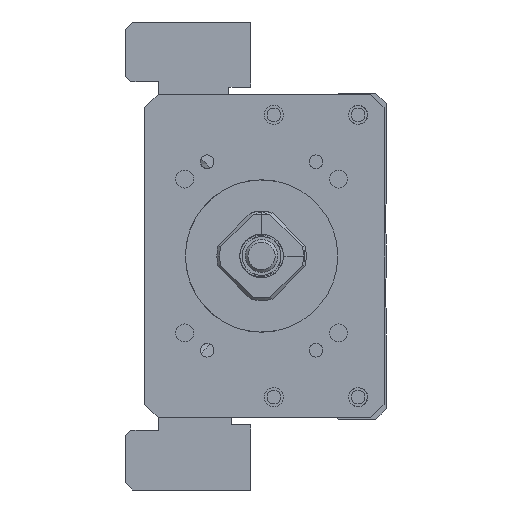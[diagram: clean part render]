
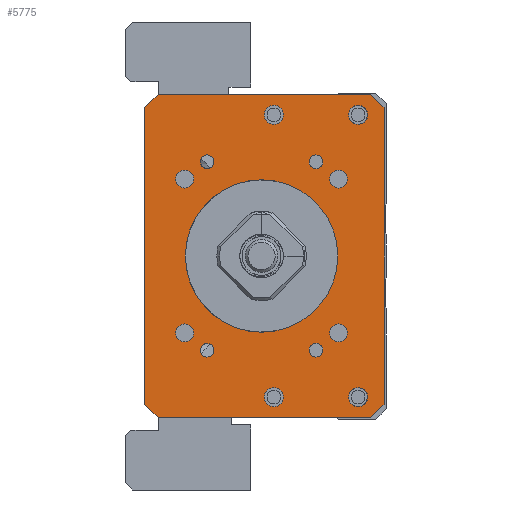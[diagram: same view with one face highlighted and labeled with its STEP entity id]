
A CAD part, left-side view. The second image highlights one B-rep face of the part: STEP entity #5775.
In plain terms, the highlighted planar face has unit normal (-1, 0, 0).
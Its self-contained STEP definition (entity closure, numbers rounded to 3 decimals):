
#4597=FACE_BOUND('',#7522,.T.);
#4598=FACE_BOUND('',#7523,.T.);
#4599=FACE_BOUND('',#7524,.T.);
#4600=FACE_BOUND('',#7525,.T.);
#4601=FACE_BOUND('',#7526,.T.);
#4602=FACE_BOUND('',#7527,.T.);
#4603=FACE_BOUND('',#7528,.T.);
#4604=FACE_BOUND('',#7529,.T.);
#4605=FACE_BOUND('',#7530,.T.);
#4606=FACE_BOUND('',#7531,.T.);
#4607=FACE_BOUND('',#7532,.T.);
#4608=FACE_BOUND('',#7533,.T.);
#4609=FACE_BOUND('',#7534,.T.);
#4610=FACE_BOUND('',#7535,.T.);
#5148=CIRCLE('',#15992,14.);
#5157=CIRCLE('',#16003,1.65);
#5158=CIRCLE('',#16004,1.65);
#5159=CIRCLE('',#16005,1.65);
#5160=CIRCLE('',#16006,1.65);
#5161=CIRCLE('',#16007,1.25);
#5162=CIRCLE('',#16008,1.75);
#5163=CIRCLE('',#16009,1.25);
#5164=CIRCLE('',#16010,1.75);
#5165=CIRCLE('',#16011,1.25);
#5166=CIRCLE('',#16012,1.75);
#5167=CIRCLE('',#16013,1.75);
#5168=CIRCLE('',#16014,1.25);
#5775=ADVANCED_FACE('',(#4597,#4598,#4599,#4600,#4601,#4602,#4603,#4604,
#4605,#4606,#4607,#4608,#4609,#4610),#6285,.F.);
#6285=PLANE('',#16015);
#7522=EDGE_LOOP('',(#10085));
#7523=EDGE_LOOP('',(#10086));
#7524=EDGE_LOOP('',(#10087));
#7525=EDGE_LOOP('',(#10088));
#7526=EDGE_LOOP('',(#10089));
#7527=EDGE_LOOP('',(#10090));
#7528=EDGE_LOOP('',(#10091));
#7529=EDGE_LOOP('',(#10092));
#7530=EDGE_LOOP('',(#10093));
#7531=EDGE_LOOP('',(#10094,#10095,#10096,#10097,#10098,#10099,#10100,#10101));
#7532=EDGE_LOOP('',(#10102));
#7533=EDGE_LOOP('',(#10103));
#7534=EDGE_LOOP('',(#10104));
#7535=EDGE_LOOP('',(#10105));
#10085=ORIENTED_EDGE('',*,*,#13010,.F.);
#10086=ORIENTED_EDGE('',*,*,#13011,.F.);
#10087=ORIENTED_EDGE('',*,*,#13012,.F.);
#10088=ORIENTED_EDGE('',*,*,#13013,.F.);
#10089=ORIENTED_EDGE('',*,*,#13014,.F.);
#10090=ORIENTED_EDGE('',*,*,#13015,.T.);
#10091=ORIENTED_EDGE('',*,*,#13016,.F.);
#10092=ORIENTED_EDGE('',*,*,#13017,.F.);
#10093=ORIENTED_EDGE('',*,*,#13018,.F.);
#10094=ORIENTED_EDGE('',*,*,#13007,.T.);
#10095=ORIENTED_EDGE('',*,*,#13019,.T.);
#10096=ORIENTED_EDGE('',*,*,#13020,.F.);
#10097=ORIENTED_EDGE('',*,*,#13021,.T.);
#10098=ORIENTED_EDGE('',*,*,#13022,.F.);
#10099=ORIENTED_EDGE('',*,*,#13023,.T.);
#10100=ORIENTED_EDGE('',*,*,#13024,.T.);
#10101=ORIENTED_EDGE('',*,*,#13025,.T.);
#10102=ORIENTED_EDGE('',*,*,#13026,.F.);
#10103=ORIENTED_EDGE('',*,*,#13027,.F.);
#10104=ORIENTED_EDGE('',*,*,#13028,.F.);
#10105=ORIENTED_EDGE('',*,*,#12987,.F.);
#11608=VERTEX_POINT('',#22436);
#11628=VERTEX_POINT('',#22496);
#11629=VERTEX_POINT('',#22498);
#11631=VERTEX_POINT('',#22504);
#11632=VERTEX_POINT('',#22506);
#11633=VERTEX_POINT('',#22508);
#11634=VERTEX_POINT('',#22510);
#11635=VERTEX_POINT('',#22512);
#11636=VERTEX_POINT('',#22514);
#11637=VERTEX_POINT('',#22516);
#11638=VERTEX_POINT('',#22518);
#11639=VERTEX_POINT('',#22520);
#11640=VERTEX_POINT('',#22522);
#11641=VERTEX_POINT('',#22524);
#11642=VERTEX_POINT('',#22526);
#11643=VERTEX_POINT('',#22528);
#11644=VERTEX_POINT('',#22530);
#11645=VERTEX_POINT('',#22532);
#11646=VERTEX_POINT('',#22535);
#11647=VERTEX_POINT('',#22537);
#11648=VERTEX_POINT('',#22539);
#12987=EDGE_CURVE('',#11608,#11608,#5148,.T.);
#13007=EDGE_CURVE('',#11629,#11628,#14135,.T.);
#13010=EDGE_CURVE('',#11631,#11631,#5157,.T.);
#13011=EDGE_CURVE('',#11632,#11632,#5158,.T.);
#13012=EDGE_CURVE('',#11633,#11633,#5159,.T.);
#13013=EDGE_CURVE('',#11634,#11634,#5160,.T.);
#13014=EDGE_CURVE('',#11635,#11635,#5161,.T.);
#13015=EDGE_CURVE('',#11636,#11636,#5162,.T.);
#13016=EDGE_CURVE('',#11637,#11637,#5163,.T.);
#13017=EDGE_CURVE('',#11638,#11638,#5164,.T.);
#13018=EDGE_CURVE('',#11639,#11639,#5165,.T.);
#13019=EDGE_CURVE('',#11628,#11640,#14137,.T.);
#13020=EDGE_CURVE('',#11641,#11640,#14138,.T.);
#13021=EDGE_CURVE('',#11641,#11642,#14139,.T.);
#13022=EDGE_CURVE('',#11643,#11642,#14140,.T.);
#13023=EDGE_CURVE('',#11643,#11644,#14141,.T.);
#13024=EDGE_CURVE('',#11644,#11645,#14142,.T.);
#13025=EDGE_CURVE('',#11645,#11629,#14143,.T.);
#13026=EDGE_CURVE('',#11646,#11646,#5166,.T.);
#13027=EDGE_CURVE('',#11647,#11647,#5167,.T.);
#13028=EDGE_CURVE('',#11648,#11648,#5168,.T.);
#14135=LINE('',#22497,#15048);
#14137=LINE('',#22521,#15050);
#14138=LINE('',#22523,#15051);
#14139=LINE('',#22525,#15052);
#14140=LINE('',#22527,#15053);
#14141=LINE('',#22529,#15054);
#14142=LINE('',#22531,#15055);
#14143=LINE('',#22533,#15056);
#15048=VECTOR('',#18700,1.);
#15050=VECTOR('',#18724,1.);
#15051=VECTOR('',#18725,1.);
#15052=VECTOR('',#18726,1.);
#15053=VECTOR('',#18727,1.);
#15054=VECTOR('',#18728,1.);
#15055=VECTOR('',#18729,1.);
#15056=VECTOR('',#18730,1.);
#15992=AXIS2_PLACEMENT_3D('',#22435,#18674,#18675);
#16003=AXIS2_PLACEMENT_3D('',#22503,#18706,#18707);
#16004=AXIS2_PLACEMENT_3D('',#22505,#18708,#18709);
#16005=AXIS2_PLACEMENT_3D('',#22507,#18710,#18711);
#16006=AXIS2_PLACEMENT_3D('',#22509,#18712,#18713);
#16007=AXIS2_PLACEMENT_3D('',#22511,#18714,#18715);
#16008=AXIS2_PLACEMENT_3D('',#22513,#18716,#18717);
#16009=AXIS2_PLACEMENT_3D('',#22515,#18718,#18719);
#16010=AXIS2_PLACEMENT_3D('',#22517,#18720,#18721);
#16011=AXIS2_PLACEMENT_3D('',#22519,#18722,#18723);
#16012=AXIS2_PLACEMENT_3D('',#22534,#18731,#18732);
#16013=AXIS2_PLACEMENT_3D('',#22536,#18733,#18734);
#16014=AXIS2_PLACEMENT_3D('',#22538,#18735,#18736);
#16015=AXIS2_PLACEMENT_3D('',#22540,#18737,#18738);
#18674=DIRECTION('',(-1.,0.,0.));
#18675=DIRECTION('',(0.,1.,0.));
#18700=DIRECTION('',(0.,0.,-1.));
#18706=DIRECTION('',(-1.,0.,0.));
#18707=DIRECTION('',(0.,0.,1.));
#18708=DIRECTION('',(-1.,0.,0.));
#18709=DIRECTION('',(0.,0.,1.));
#18710=DIRECTION('',(-1.,0.,0.));
#18711=DIRECTION('',(0.,0.,1.));
#18712=DIRECTION('',(-1.,0.,0.));
#18713=DIRECTION('',(0.,0.,1.));
#18714=DIRECTION('',(-1.,0.,0.));
#18715=DIRECTION('',(0.,1.,0.));
#18716=DIRECTION('',(1.,0.,0.));
#18717=DIRECTION('',(0.,0.,1.));
#18718=DIRECTION('',(-1.,0.,0.));
#18719=DIRECTION('',(0.,1.,0.));
#18720=DIRECTION('',(-1.,0.,0.));
#18721=DIRECTION('',(0.,0.,1.));
#18722=DIRECTION('',(-1.,0.,0.));
#18723=DIRECTION('',(0.,1.,0.));
#18724=DIRECTION('',(0.,-0.707,-0.707));
#18725=DIRECTION('',(0.,1.,0.));
#18726=DIRECTION('',(0.,-0.707,0.707));
#18727=DIRECTION('',(0.,0.,-1.));
#18728=DIRECTION('',(0.,0.707,0.707));
#18729=DIRECTION('',(0.,1.,0.));
#18730=DIRECTION('',(0.,0.707,-0.707));
#18731=DIRECTION('',(-1.,0.,0.));
#18732=DIRECTION('',(0.,0.,1.));
#18733=DIRECTION('',(-1.,0.,0.));
#18734=DIRECTION('',(0.,0.,1.));
#18735=DIRECTION('',(-1.,0.,0.));
#18736=DIRECTION('',(0.,1.,0.));
#18737=DIRECTION('',(1.,0.,0.));
#18738=DIRECTION('',(0.,1.,0.));
#22435=CARTESIAN_POINT('',(-211.,0.,-300.));
#22436=CARTESIAN_POINT('',(-211.,14.,-300.));
#22496=CARTESIAN_POINT('',(-211.,21.499,-327.25));
#22497=CARTESIAN_POINT('',(-211.,21.499,-270.25));
#22498=CARTESIAN_POINT('',(-211.,21.499,-272.75));
#22503=CARTESIAN_POINT('',(-211.,14.142,-285.858));
#22504=CARTESIAN_POINT('',(-211.,14.142,-284.208));
#22505=CARTESIAN_POINT('',(-211.,-14.142,-285.858));
#22506=CARTESIAN_POINT('',(-211.,-14.142,-284.208));
#22507=CARTESIAN_POINT('',(-211.,14.142,-314.142));
#22508=CARTESIAN_POINT('',(-211.,14.142,-312.492));
#22509=CARTESIAN_POINT('',(-211.,-14.142,-314.142));
#22510=CARTESIAN_POINT('',(-211.,-14.142,-312.492));
#22511=CARTESIAN_POINT('',(-211.,-10.,-317.321));
#22512=CARTESIAN_POINT('',(-211.,-8.75,-317.321));
#22513=CARTESIAN_POINT('',(-211.,-2.25,-325.936));
#22514=CARTESIAN_POINT('',(-211.,-2.25,-324.186));
#22515=CARTESIAN_POINT('',(-211.,10.,-282.679));
#22516=CARTESIAN_POINT('',(-211.,11.25,-282.679));
#22517=CARTESIAN_POINT('',(-211.,-2.25,-274.064));
#22518=CARTESIAN_POINT('',(-211.,-2.25,-272.314));
#22519=CARTESIAN_POINT('',(-211.,10.,-317.321));
#22520=CARTESIAN_POINT('',(-211.,11.25,-317.321));
#22521=CARTESIAN_POINT('',(-211.,18.999,-329.75));
#22522=CARTESIAN_POINT('',(-211.,18.999,-329.75));
#22523=CARTESIAN_POINT('',(-211.,-22.501,-329.75));
#22524=CARTESIAN_POINT('',(-211.,-20.001,-329.75));
#22525=CARTESIAN_POINT('',(-211.,-22.501,-327.25));
#22526=CARTESIAN_POINT('',(-211.,-22.501,-327.25));
#22527=CARTESIAN_POINT('',(-211.,-22.501,-270.25));
#22528=CARTESIAN_POINT('',(-211.,-22.501,-272.75));
#22529=CARTESIAN_POINT('',(-211.,-22.501,-272.75));
#22530=CARTESIAN_POINT('',(-211.,-20.001,-270.25));
#22531=CARTESIAN_POINT('',(-211.,-22.501,-270.25));
#22532=CARTESIAN_POINT('',(-211.,18.999,-270.25));
#22533=CARTESIAN_POINT('',(-211.,18.999,-270.25));
#22534=CARTESIAN_POINT('',(-211.,-17.75,-274.064));
#22535=CARTESIAN_POINT('',(-211.,-17.75,-272.314));
#22536=CARTESIAN_POINT('',(-211.,-17.75,-325.936));
#22537=CARTESIAN_POINT('',(-211.,-17.75,-324.186));
#22538=CARTESIAN_POINT('',(-211.,-10.,-282.679));
#22539=CARTESIAN_POINT('',(-211.,-8.75,-282.679));
#22540=CARTESIAN_POINT('',(-211.,-22.501,-270.25));
